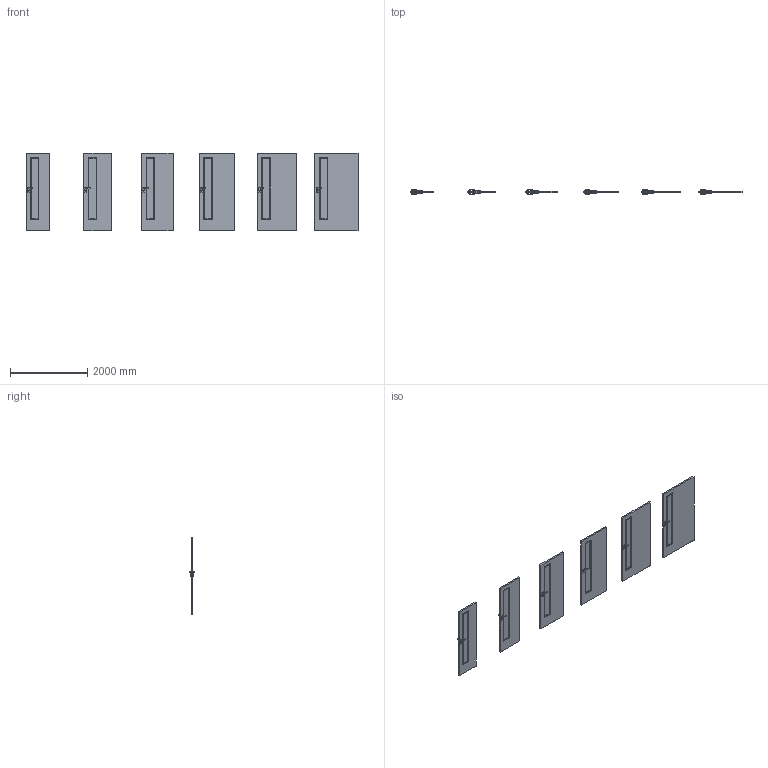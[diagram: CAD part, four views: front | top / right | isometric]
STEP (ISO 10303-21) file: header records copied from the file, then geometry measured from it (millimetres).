
FILE_DESCRIPTION(/* description */ (''),/* implementation_level */ '2;1');
FILE_NAME(/* name */ '050209_A_2-Skrzydło FIT model I_ polska norma _PN__ bezprzylgowe..stp',/* time_stamp */ '2025-01-07T12:50:30+01:00',/* author */ (''),/* organization */ (''),/* preprocessor_version */ 'ST-DEVELOPER v16',/* originating_system */ 'SIEMENS PLM Software NX 11.0',/* authorisation */ '');
FILE_SCHEMA (('AUTOMOTIVE_DESIGN { 1 0 10303 214 3 1 1 1 }'));
Products named in the file (1): bkni16DCB670po8v
Bounding box: 8618 x 153.27 x 2017 mm (x, y, z)
Volume: 355220157.5 mm3; surface area: 24347073.5 mm2
Topology: 30 solids, 36 shells, 1800 faces, 4356 edges, 2448 vertices
Faces by surface type: plane 912, bspline 432, cylinder 288, sphere 168
Entity records: 78291 total; most frequent: CARTESIAN_POINT 39865, ORIENTED_EDGE 8376, DIRECTION 6986, EDGE_CURVE 4188, VERTEX_POINT 2448, AXIS2_PLACEMENT_3D 2329, LINE 2328, VECTOR 2328
